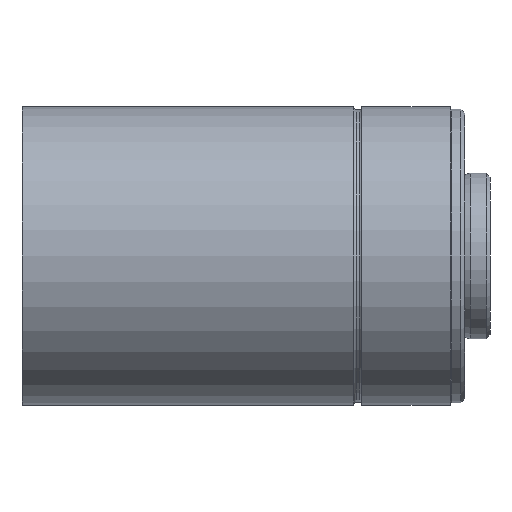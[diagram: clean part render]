
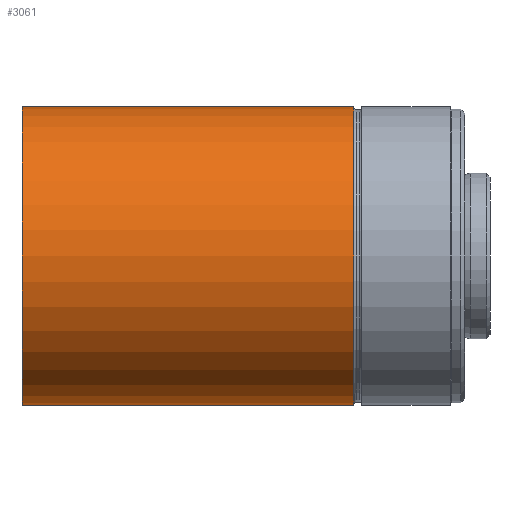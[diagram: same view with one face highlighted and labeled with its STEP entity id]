
A CAD part, front view. The second image highlights one B-rep face of the part: STEP entity #3061.
In plain terms, the highlighted cylindrical face has radius 56.975 mm (diameter 113.95 mm), a partial arc.
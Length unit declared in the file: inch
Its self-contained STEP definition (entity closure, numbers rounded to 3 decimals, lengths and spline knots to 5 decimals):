
#276=CARTESIAN_POINT('',(0.,0.,0.));
#277=DIRECTION('',(1.,0.,0.));
#278=DIRECTION('',(0.,0.,1.));
#279=AXIS2_PLACEMENT_3D('',#276,#277,#278);
#306=DIRECTION('',(1.,0.,0.));
#307=VECTOR('',#306,4.98031);
#308=CARTESIAN_POINT('',(0.,0.,2.24311));
#309=LINE('',#308,#307);
#310=CARTESIAN_POINT('',(4.98031,0.,0.));
#311=DIRECTION('',(1.,0.,0.));
#312=DIRECTION('',(0.,0.,1.));
#313=AXIS2_PLACEMENT_3D('',#310,#311,#312);
#320=DIRECTION('',(1.,0.,0.));
#321=VECTOR('',#320,4.98031);
#322=CARTESIAN_POINT('',(0.,0.,-2.24311));
#323=LINE('',#322,#321);
#2116=CARTESIAN_POINT('',(0.,0.,2.24311));
#2117=CARTESIAN_POINT('',(0.,0.,-2.24311));
#2118=VERTEX_POINT('',#2116);
#2119=VERTEX_POINT('',#2117);
#2132=CARTESIAN_POINT('',(4.98031,0.,2.24311));
#2133=CARTESIAN_POINT('',(4.98031,0.,-2.24311));
#2134=VERTEX_POINT('',#2132);
#2135=VERTEX_POINT('',#2133);
#3047=CARTESIAN_POINT('',(0.,0.,0.));
#3048=DIRECTION('',(1.,0.,0.));
#3049=DIRECTION('',(0.,0.,1.));
#3050=AXIS2_PLACEMENT_3D('',#3047,#3048,#3049);
#3051=CYLINDRICAL_SURFACE('',#3050,2.24311);
#3053=ORIENTED_EDGE('',*,*,#3052,.T.);
#3055=ORIENTED_EDGE('',*,*,#3054,.F.);
#3056=ORIENTED_EDGE('',*,*,#3023,.F.);
#3058=ORIENTED_EDGE('',*,*,#3057,.T.);
#3059=EDGE_LOOP('',(#3053,#3055,#3056,#3058));
#3060=FACE_OUTER_BOUND('',#3059,.F.);
#3061=ADVANCED_FACE('',(#3060),#3051,.T.);
#280=CIRCLE('',#279,2.24311);
#314=CIRCLE('',#313,2.24311);
#3023=EDGE_CURVE('',#2118,#2119,#280,.T.);
#3052=EDGE_CURVE('',#2134,#2135,#314,.T.);
#3054=EDGE_CURVE('',#2119,#2135,#323,.T.);
#3057=EDGE_CURVE('',#2118,#2134,#309,.T.);
